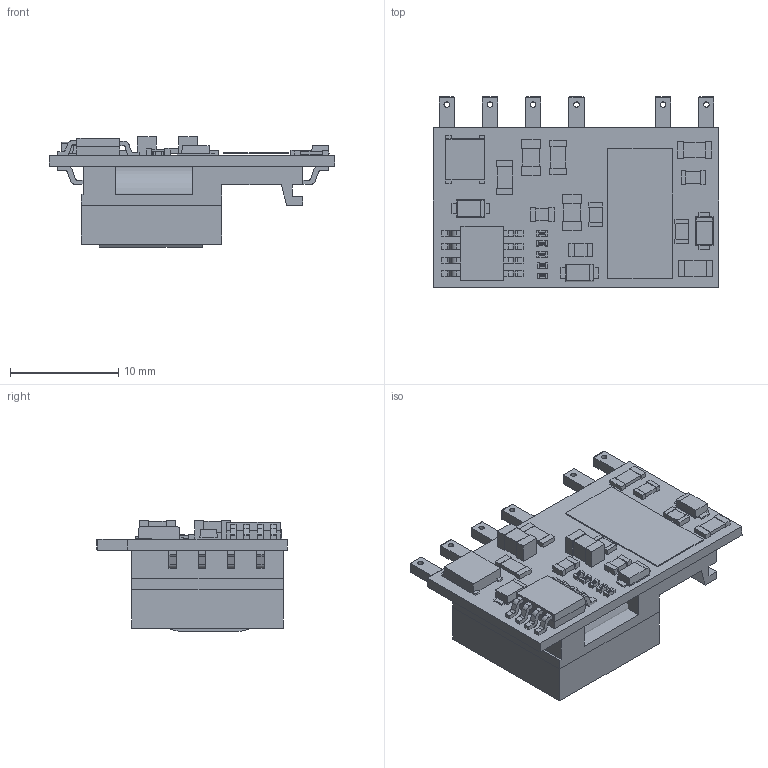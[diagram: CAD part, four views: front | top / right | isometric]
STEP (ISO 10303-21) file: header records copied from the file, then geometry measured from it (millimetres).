
FILE_DESCRIPTION (( 'STEP AP214' ), '1' );
FILE_NAME ('VTX-215-003-XXX.STEP', '2025-03-27T16:27:47', ( '' ), ( '' ), 'SwSTEP 2.0', 'SolidWorks 2022', '' );
FILE_SCHEMA (( 'AUTOMOTIVE_DESIGN' ));
Length unit declared in the file: millimetre
Products named in the file (20): Module; Convertor Module 4; PCB Board; R0402; Convertor Module 1; R0805; 1206; Convertor Module 2; Convertor Module 3; Convertor Module; SO-8; C0603; R1206; mif_sd1575; VTX-215-003-XXX; 啞蚐; SO-8-2; SO-8-1; S0402_R; s1206_c
Assembly tree (47 placements, depth 3):
  VTX-215-003-XXX
    Convertor Module
      Convertor Module 1
      Convertor Module 2
      Convertor Module 3
      Convertor Module 4  x8
    SO-8
      SO-8-1
      SO-8-2  x8
    R0402  x5
      S0402_R
    mif_sd1575  x3
    Module
    1206  x2
      s1206_c
    C0603  x3
    R0805  x2
    R1206  x4
    啞蚐
    PCB Board
Bounding box: 26.4 x 17.6 x 10.25 mm (x, y, z)
Volume: 2140 mm3; surface area: 3470.4 mm2
Topology: 50 solids, 50 shells, 1435 faces, 3728 edges, 2464 vertices
Faces by surface type: plane 1331, cylinder 104
Entity records: 18323 total; most frequent: CARTESIAN_POINT 2333, ORIENTED_EDGE 2136, DIRECTION 2058, EDGE_CURVE 1068, VECTOR 992, LINE 992, VERTEX_POINT 696, AXIS2_PLACEMENT_3D 533
